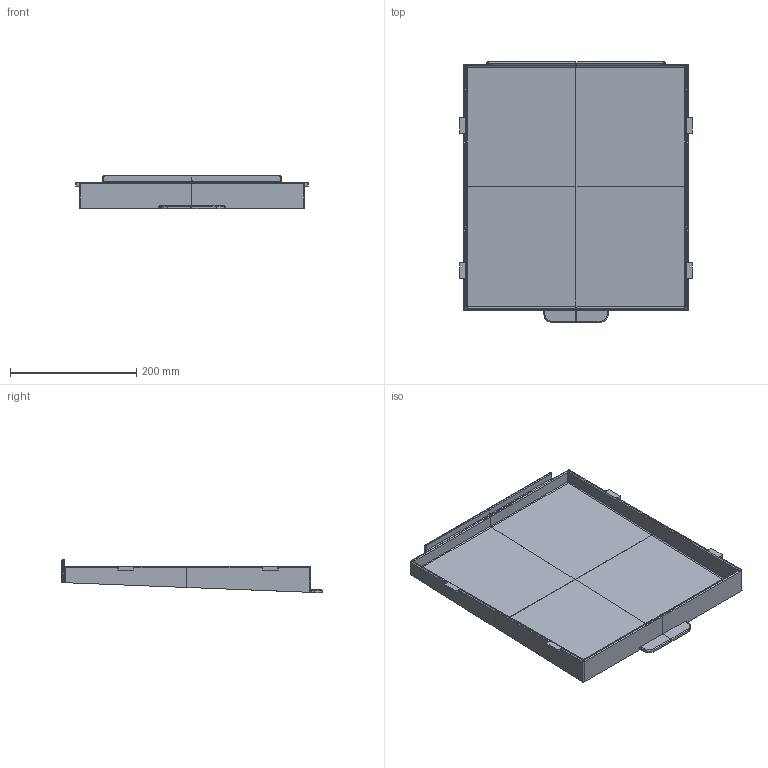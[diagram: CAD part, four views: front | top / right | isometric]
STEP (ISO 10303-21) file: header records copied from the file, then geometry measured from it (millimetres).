
FILE_DESCRIPTION(/* description */ (''),/* implementation_level */ '2;1');
FILE_NAME(/* name */ '2026_04_05_petesquared_poop_bin.step',/* time_stamp */ '2026-04-05T08:35:54-07:00',/* author */ (''),/* organization */ (''),/* preprocessor_version */ 'ST-DEVELOPER v20.1',/* originating_system */ 'Autodesk Translation Framework v14.24.0.0',/* authorisation */ '');
FILE_SCHEMA (('AUTOMOTIVE_DESIGN { 1 0 10303 214 3 1 1 }'));
Length unit declared in the file: inch
Products named in the file (4): 3d_printer_stand_v3_optimized; printer; printer_shelf; poop_bin_chute
Assembly tree (3 placements, depth 4):
  3d_printer_stand_v3_optimized
    printer
      printer_shelf
        poop_bin_chute
Bounding box: 368.91 x 412.74 x 53.18 mm (x, y, z)
Volume: 877883.6 mm3; surface area: 389387.2 mm2
Topology: 4 solids, 4 shells, 256 faces, 631 edges, 383 vertices
Faces by surface type: plane 140, cylinder 76, bspline 18, sphere 16, torus 6
Entity records: 8875 total; most frequent: CARTESIAN_POINT 2713, ORIENTED_EDGE 1262, DIRECTION 1259, EDGE_CURVE 631, LINE 435, VECTOR 435, AXIS2_PLACEMENT_3D 412, VERTEX_POINT 383
